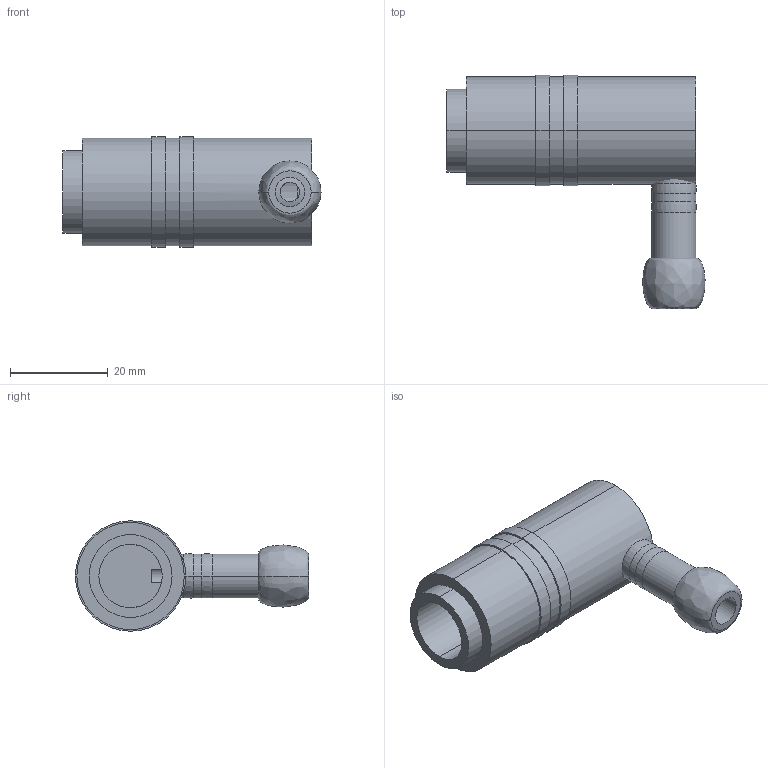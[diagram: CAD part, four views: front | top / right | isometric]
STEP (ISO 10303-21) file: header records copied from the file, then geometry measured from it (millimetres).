
FILE_DESCRIPTION (( 'STEP AP214' ), '1' );
FILE_NAME ('BR801-13-90.STEP', '2020-06-22T14:47:22', ( '' ), ( '' ), 'SwSTEP 2.0', 'SolidWorks 2018', '' );
FILE_SCHEMA (( 'AUTOMOTIVE_DESIGN' ));
Length unit declared in the file: millimetre
Products named in the file (1): BR801-13-90
Bounding box: 52.88 x 47.79 x 22.62 mm (x, y, z)
Volume: 13967.8 mm3; surface area: 7844.8 mm2
Topology: 2 solids, 2 shells, 43 faces, 90 edges, 56 vertices
Faces by surface type: cylinder 24, plane 11, bspline 4, torus 4
Entity records: 1348 total; most frequent: CARTESIAN_POINT 363, DIRECTION 215, ORIENTED_EDGE 180, AXIS2_PLACEMENT_3D 94, EDGE_CURVE 90, VERTEX_POINT 56, CIRCLE 54, EDGE_LOOP 52
